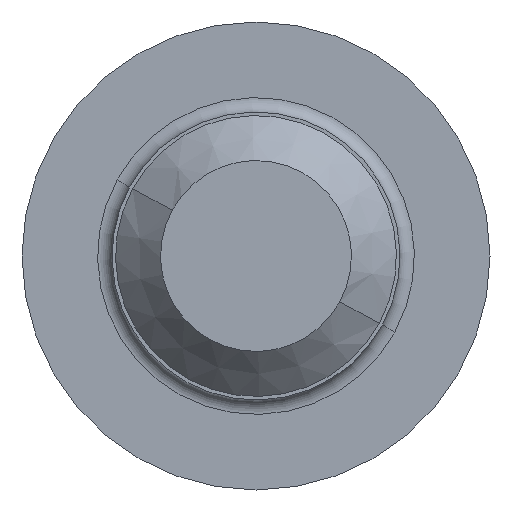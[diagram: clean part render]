
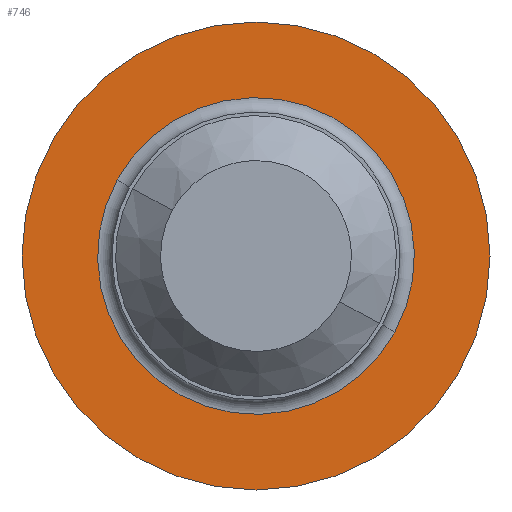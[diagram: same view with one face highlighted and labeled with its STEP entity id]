
A CAD part, left-side view. The second image highlights one B-rep face of the part: STEP entity #746.
In plain terms, the highlighted planar face has unit normal (-1, 0, 0).
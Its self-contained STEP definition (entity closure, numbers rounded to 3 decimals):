
#89=AXIS2_PLACEMENT_3D('Circle Axis2P3D',#87,#88,$) ;
#115=AXIS2_PLACEMENT_3D('Circle Axis2P3D',#113,#114,$) ;
#722=AXIS2_PLACEMENT_3D('Plane Axis2P3D',#719,#720,#721) ;
#730=AXIS2_PLACEMENT_3D('Circle Axis2P3D',#728,#729,$) ;
#739=AXIS2_PLACEMENT_3D('Circle Axis2P3D',#737,#738,$) ;
#82=CARTESIAN_POINT('Vertex',(0.,6.5,0.)) ;
#87=CARTESIAN_POINT('Axis2P3D Location',(0.,0.,0.)) ;
#91=CARTESIAN_POINT('Vertex',(0.,-6.5,0.)) ;
#113=CARTESIAN_POINT('Axis2P3D Location',(0.,0.,0.)) ;
#719=CARTESIAN_POINT('Axis2P3D Location',(0.,0.,0.)) ;
#728=CARTESIAN_POINT('Axis2P3D Location',(0.,0.,0.)) ;
#732=CARTESIAN_POINT('Vertex',(0.,3.861,2.109)) ;
#734=CARTESIAN_POINT('Vertex',(0.,-3.861,-2.109)) ;
#737=CARTESIAN_POINT('Axis2P3D Location',(0.,0.,0.)) ;
#88=DIRECTION('Axis2P3D Direction',(1.,0.,0.)) ;
#114=DIRECTION('Axis2P3D Direction',(1.,0.,0.)) ;
#720=DIRECTION('Axis2P3D Direction',(1.,0.,0.)) ;
#721=DIRECTION('Axis2P3D XDirection',(0.,1.,0.)) ;
#729=DIRECTION('Axis2P3D Direction',(1.,0.,0.)) ;
#738=DIRECTION('Axis2P3D Direction',(1.,0.,0.)) ;
#725=ORIENTED_EDGE('',*,*,#117,.F.) ;
#726=ORIENTED_EDGE('',*,*,#93,.F.) ;
#743=ORIENTED_EDGE('',*,*,#736,.F.) ;
#744=ORIENTED_EDGE('',*,*,#741,.F.) ;
#745=FACE_BOUND('',#742,.T.) ;
#746=ADVANCED_FACE('PartBody',(#727,#745),#723,.F.) ;
#90=CIRCLE('generated circle',#89,6.5) ;
#116=CIRCLE('generated circle',#115,6.5) ;
#731=CIRCLE('generated circle',#730,4.4) ;
#740=CIRCLE('generated circle',#739,4.4) ;
#93=EDGE_CURVE('',#83,#92,#90,.T.) ;
#117=EDGE_CURVE('',#92,#83,#116,.T.) ;
#736=EDGE_CURVE('',#733,#735,#731,.F.) ;
#741=EDGE_CURVE('',#735,#733,#740,.F.) ;
#724=EDGE_LOOP('',(#725,#726)) ;
#742=EDGE_LOOP('',(#743,#744)) ;
#727=FACE_OUTER_BOUND('',#724,.T.) ;
#723=PLANE('',#722) ;
#83=VERTEX_POINT('',#82) ;
#92=VERTEX_POINT('',#91) ;
#733=VERTEX_POINT('',#732) ;
#735=VERTEX_POINT('',#734) ;
